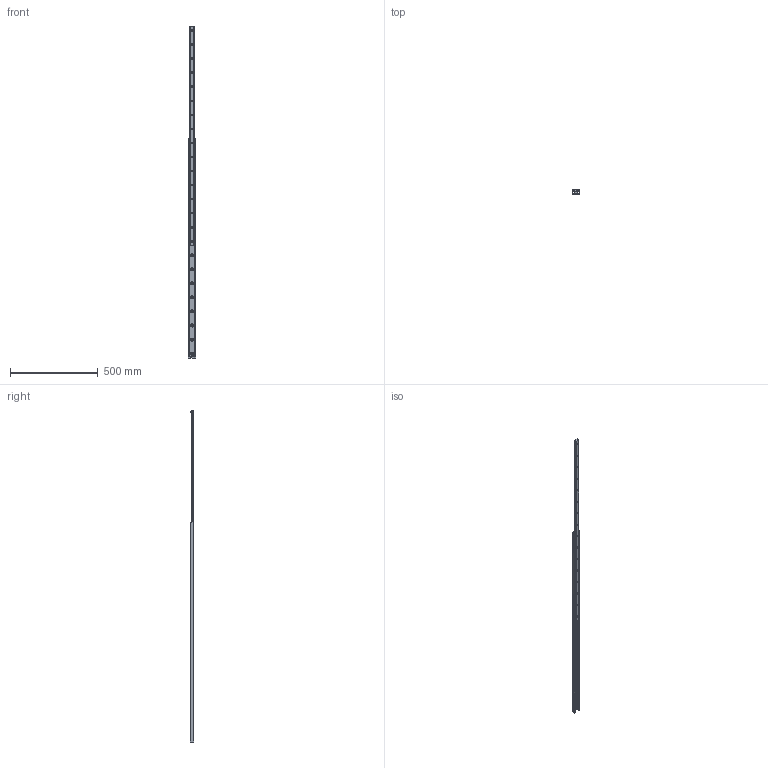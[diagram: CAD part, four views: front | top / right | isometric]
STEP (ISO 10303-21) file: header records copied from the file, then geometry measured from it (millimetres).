
FILE_DESCRIPTION(('STEP AP214'),'1');
FILE_NAME('rail_asn43-1250_01.stp','2017-06-06T10:19:06',('TraceParts'),('TraceParts S.A.'),'Spatial InterOp 3D',' ',' ');
FILE_SCHEMA(('automotive_design'));
Length unit declared in the file: millimetre
Products named in the file (2): rail_asn43-1250_01_1; rail_asn43-1250_01_2
Bounding box: 43 x 22.01 x 1888 mm (x, y, z)
Volume: 760839.6 mm3; surface area: 294456.2 mm2
Topology: 2 solids, 2 shells, 237 faces, 588 edges, 360 vertices
Faces by surface type: cone 96, cylinder 95, plane 46
Entity records: 7198 total; most frequent: DIRECTION 1352, CARTESIAN_POINT 1187, ORIENTED_EDGE 1176, EDGE_CURVE 588, AXIS2_PLACEMENT_3D 525, VERTEX_POINT 360, EDGE_LOOP 306, LINE 302
